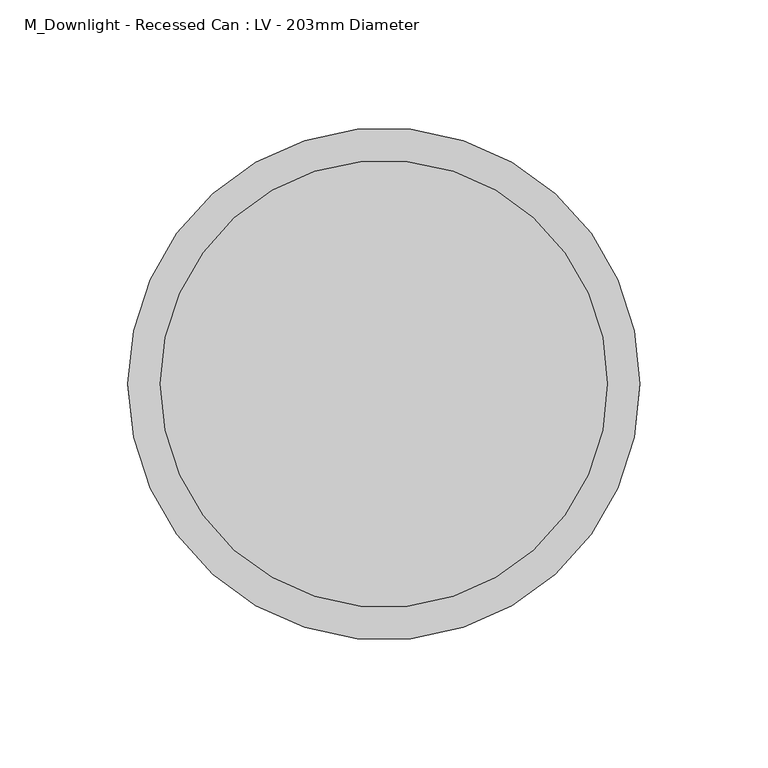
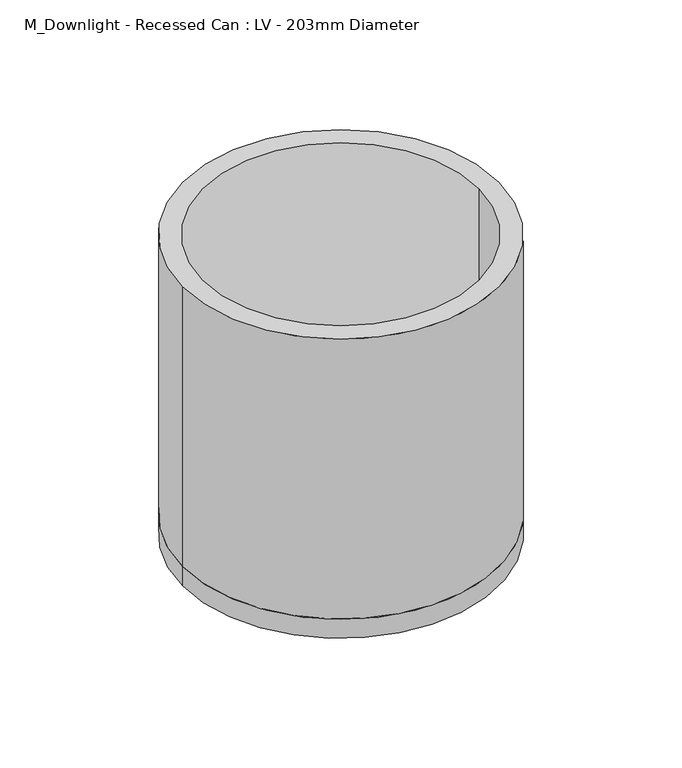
"""IFC4 building model written with IfcOpenShell, lengths in millimetres: light fixture geometry, M_Downlight - Recessed Can : LV - 203mm Diameter."""

from ifc_helpers import new_model, si_unit, point, frame, origin, origin_2d, place, context, project, spatial, circle_curve, trimmed, segment, composite_curve, outline, extrude, source, transform, mapped, element, save


def m_downlight_recessed_can_lv_203mm_diameter_9ee1ae92(model_context):
    return source(origin(), model_context, "Body", "SweptSolid", [
        extrude(outline(composite_curve([segment(trimmed(circle_curve(origin_2d(), 100.0), [point((-100.0, 0.0))], [point((100.0, 0.0))], False, "CARTESIAN"), True, "CONTINUOUS"), segment(trimmed(circle_curve(origin_2d(), 100.0), [point((100.0, 0.0))], [point((-100.0, 0.0))], False, "CARTESIAN"), True, "CONTINUOUS")], self_intersect=False)), frame((0.0, 0.0, -200.0), z_axis=(0.0, 0.0, 1.0), x_axis=(1.0, 0.0, 0.0)), (0.0, 0.0, 1.0), 12.7),
        extrude(outline(composite_curve([segment(trimmed(circle_curve(origin_2d(), 100.0), [point((-100.0, 0.0))], [point((100.0, 0.0))], False, "CARTESIAN"), True, "CONTINUOUS"), segment(trimmed(circle_curve(origin_2d(), 100.0), [point((100.0, 0.0))], [point((-100.0, 0.0))], False, "CARTESIAN"), True, "CONTINUOUS")], self_intersect=False), holes=[composite_curve([segment(trimmed(circle_curve(origin_2d(), 87.3), [point((-87.3, 0.0))], [point((87.3, 0.0))], True, "CARTESIAN"), True, "CONTINUOUS"), segment(trimmed(circle_curve(origin_2d(), 87.3), [point((87.3, 0.0))], [point((-87.3, 0.0))], True, "CARTESIAN"), True, "CONTINUOUS")], self_intersect=False)]), frame((0.0, 0.0, -187.3), z_axis=(0.0, 0.0, 1.0), x_axis=(1.0, 0.0, 0.0)), (0.0, 0.0, 1.0), 187.3),
    ])


if __name__ == "__main__":
    model = new_model("IFC4")
    model_context = context("Model", 3, world=origin())
    ifc_project = project(units=[si_unit("LENGTHUNIT", "METRE", prefix="MILLI")], contexts=[model_context])
    site = spatial("IfcSite", under=ifc_project)
    building = spatial("IfcBuilding", under=site)
    placement = place(None, origin())
    m_downlight_recessed_can_lv_203mm_diameter_shape = m_downlight_recessed_can_lv_203mm_diameter_9ee1ae92(model_context)
    element("IfcLightFixture", 1, ObjectType="M_Downlight - Recessed Can : LV - 203mm Diameter", at=placement, inside=building, context=model_context, shape_type="MappedRepresentation", body=[
        mapped(m_downlight_recessed_can_lv_203mm_diameter_shape, transform((0.0, 0.0, 0.0), x_axis=(1.0, 0.0, 0.0), y_axis=(0.0, 1.0, 0.0), z_axis=(0.0, 0.0, 1.0))),
    ])
    save(model, "model.ifc")
